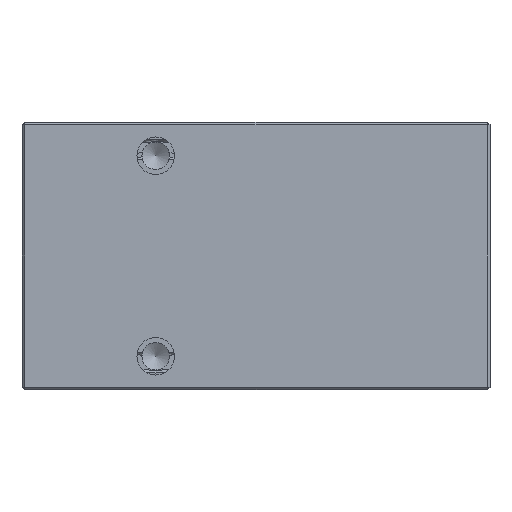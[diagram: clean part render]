
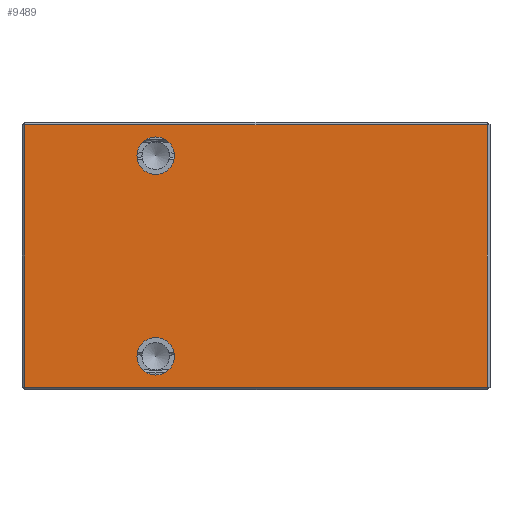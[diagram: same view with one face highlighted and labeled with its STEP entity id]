
A CAD part, front view. The second image highlights one B-rep face of the part: STEP entity #9489.
In plain terms, the highlighted planar face has unit normal (0, -1, 0).
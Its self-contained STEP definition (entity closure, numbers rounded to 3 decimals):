
#106=FACE_BOUND('',#1622,.T.);
#107=FACE_BOUND('',#1623,.T.);
#1063=FACE_OUTER_BOUND('',#1621,.T.);
#1621=EDGE_LOOP('',(#7671,#7672,#7673,#7674));
#1622=EDGE_LOOP('',(#7675));
#1623=EDGE_LOOP('',(#7676));
#1838=CIRCLE('',#9917,2.25);
#1839=CIRCLE('',#9918,2.25);
#2616=LINE('',#16265,#3372);
#2625=LINE('',#16282,#3381);
#2627=LINE('',#16285,#3383);
#2630=LINE('',#16291,#3386);
#3372=VECTOR('',#11278,10.);
#3381=VECTOR('',#11295,10.);
#3383=VECTOR('',#11299,10.);
#3386=VECTOR('',#11308,10.);
#4172=VERTEX_POINT('',#16246);
#4175=VERTEX_POINT('',#16259);
#4177=VERTEX_POINT('',#16270);
#4180=VERTEX_POINT('',#16278);
#4197=VERTEX_POINT('',#16349);
#4198=VERTEX_POINT('',#16351);
#5353=EDGE_CURVE('',#4175,#4172,#2616,.T.);
#5362=EDGE_CURVE('',#4177,#4180,#2625,.T.);
#5364=EDGE_CURVE('',#4180,#4175,#2627,.T.);
#5367=EDGE_CURVE('',#4172,#4177,#2630,.T.);
#5395=EDGE_CURVE('',#4197,#4197,#1838,.T.);
#5396=EDGE_CURVE('',#4198,#4198,#1839,.T.);
#7671=ORIENTED_EDGE('',*,*,#5362,.F.);
#7672=ORIENTED_EDGE('',*,*,#5367,.F.);
#7673=ORIENTED_EDGE('',*,*,#5353,.F.);
#7674=ORIENTED_EDGE('',*,*,#5364,.F.);
#7675=ORIENTED_EDGE('',*,*,#5395,.T.);
#7676=ORIENTED_EDGE('',*,*,#5396,.T.);
#8559=PLANE('',#9916);
#9489=ADVANCED_FACE('',(#1063,#106,#107),#8559,.T.);
#9916=AXIS2_PLACEMENT_3D('',#16348,#11376,#11377);
#9917=AXIS2_PLACEMENT_3D('',#16350,#11378,#11379);
#9918=AXIS2_PLACEMENT_3D('',#16352,#11380,#11381);
#11278=DIRECTION('',(0.,0.,-1.));
#11295=DIRECTION('',(0.,0.,1.));
#11299=DIRECTION('',(1.,0.,0.));
#11308=DIRECTION('',(-1.,0.,0.));
#11376=DIRECTION('center_axis',(0.,-1.,0.));
#11377=DIRECTION('ref_axis',(0.,0.,
-1.));
#11378=DIRECTION('center_axis',(0.,1.,0.));
#11379=DIRECTION('ref_axis',(1.,0.,0.));
#11380=DIRECTION('center_axis',(0.,1.,0.));
#11381=DIRECTION('ref_axis',(1.,0.,0.));
#16246=CARTESIAN_POINT('',(55.7,0.,-15.7));
#16259=CARTESIAN_POINT('',(55.7,0.,15.7));
#16265=CARTESIAN_POINT('',(55.7,0.,0.));
#16270=CARTESIAN_POINT('',(0.3,0.,-15.7));
#16278=CARTESIAN_POINT('',(0.3,0.,15.7));
#16282=CARTESIAN_POINT('',(0.3,0.,0.));
#16285=CARTESIAN_POINT('',(42.,0.,15.7));
#16291=CARTESIAN_POINT('',(42.,0.,-15.7));
#16348=CARTESIAN_POINT('Origin',(56.,0.,0.));
#16349=CARTESIAN_POINT('',(13.75,0.,12.));
#16350=CARTESIAN_POINT('Origin',(16.,0.,12.));
#16351=CARTESIAN_POINT('',(13.75,0.,-12.));
#16352=CARTESIAN_POINT('Origin',(16.,0.,-12.));
